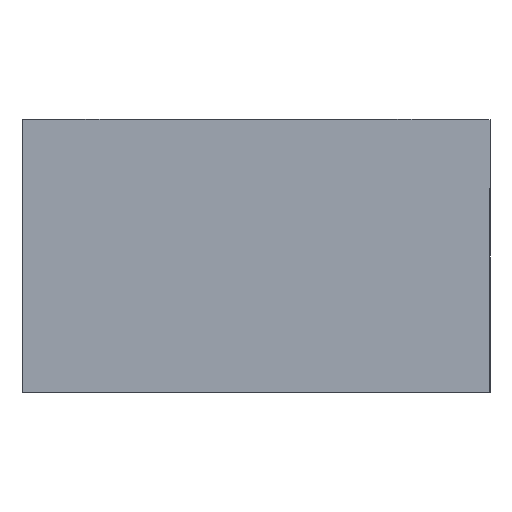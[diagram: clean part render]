
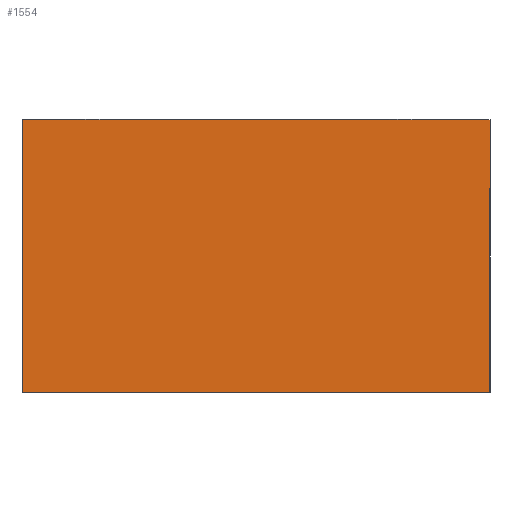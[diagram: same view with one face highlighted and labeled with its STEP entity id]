
A CAD part, front view. The second image highlights one B-rep face of the part: STEP entity #1554.
In plain terms, the highlighted planar face has unit normal (0, -1, 0).
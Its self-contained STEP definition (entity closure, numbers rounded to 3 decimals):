
#62 = CARTESIAN_POINT ( 'NONE',  ( -30., 0., -17.5 ) ) ;
#113 = ORIENTED_EDGE ( 'NONE', *, *, #514, .F. ) ;
#150 = VERTEX_POINT ( 'NONE', #879 ) ;
#220 = LINE ( 'NONE', #1397, #2319 ) ;
#241 = VERTEX_POINT ( 'NONE', #2134 ) ;
#297 = FACE_OUTER_BOUND ( 'NONE', #2529, .T. ) ;
#328 = CARTESIAN_POINT ( 'NONE',  ( 30., 0., -17.5 ) ) ;
#425 = EDGE_CURVE ( 'NONE', #150, #241, #2404, .T. ) ;
#487 = LINE ( 'NONE', #62, #967 ) ;
#514 = EDGE_CURVE ( 'NONE', #241, #1999, #614, .T. ) ;
#560 = EDGE_CURVE ( 'NONE', #1999, #1586, #487, .T. ) ;
#605 = EDGE_CURVE ( 'NONE', #1586, #150, #220, .T. ) ;
#614 = LINE ( 'NONE', #1381, #1097 ) ;
#624 = DIRECTION ( 'NONE',  ( 0., 0., 1. ) ) ;
#879 = CARTESIAN_POINT ( 'NONE',  ( -30., 0., 17.5 ) ) ;
#967 = VECTOR ( 'NONE', #1460, 1000. ) ;
#1097 = VECTOR ( 'NONE', #2217, 1000. ) ;
#1381 = CARTESIAN_POINT ( 'NONE',  ( 30., 0., -17.5 ) ) ;
#1397 = CARTESIAN_POINT ( 'NONE',  ( -30., 0., -17.5 ) ) ;
#1460 = DIRECTION ( 'NONE',  ( -1., 0., 0. ) ) ;
#1520 = PLANE ( 'NONE',  #1955 ) ;
#1530 = CARTESIAN_POINT ( 'NONE',  ( 0., 0., 0. ) ) ;
#1554 = ADVANCED_FACE ( 'NONE', ( #297 ), #1520, .F. ) ;
#1584 = DIRECTION ( 'NONE',  ( 0., 1., 0. ) ) ;
#1586 = VERTEX_POINT ( 'NONE', #1919 ) ;
#1610 = DIRECTION ( 'NONE',  ( 0., 0., 1. ) ) ;
#1629 = ORIENTED_EDGE ( 'NONE', *, *, #605, .F. ) ;
#1656 = ORIENTED_EDGE ( 'NONE', *, *, #560, .F. ) ;
#1657 = ORIENTED_EDGE ( 'NONE', *, *, #425, .F. ) ;
#1721 = DIRECTION ( 'NONE',  ( 1., 0., 0. ) ) ;
#1919 = CARTESIAN_POINT ( 'NONE',  ( -30., 0., -17.5 ) ) ;
#1920 = VECTOR ( 'NONE', #1721, 1000. ) ;
#1955 = AXIS2_PLACEMENT_3D ( 'NONE', #1530, #1584, #1610 ) ;
#1999 = VERTEX_POINT ( 'NONE', #328 ) ;
#2089 = CARTESIAN_POINT ( 'NONE',  ( -30., 0., 17.5 ) ) ;
#2134 = CARTESIAN_POINT ( 'NONE',  ( 30., 0., 17.5 ) ) ;
#2217 = DIRECTION ( 'NONE',  ( 0., 0., -1. ) ) ;
#2319 = VECTOR ( 'NONE', #624, 1000. ) ;
#2404 = LINE ( 'NONE', #2089, #1920 ) ;
#2529 = EDGE_LOOP ( 'NONE', ( #113, #1657, #1629, #1656 ) ) ;
